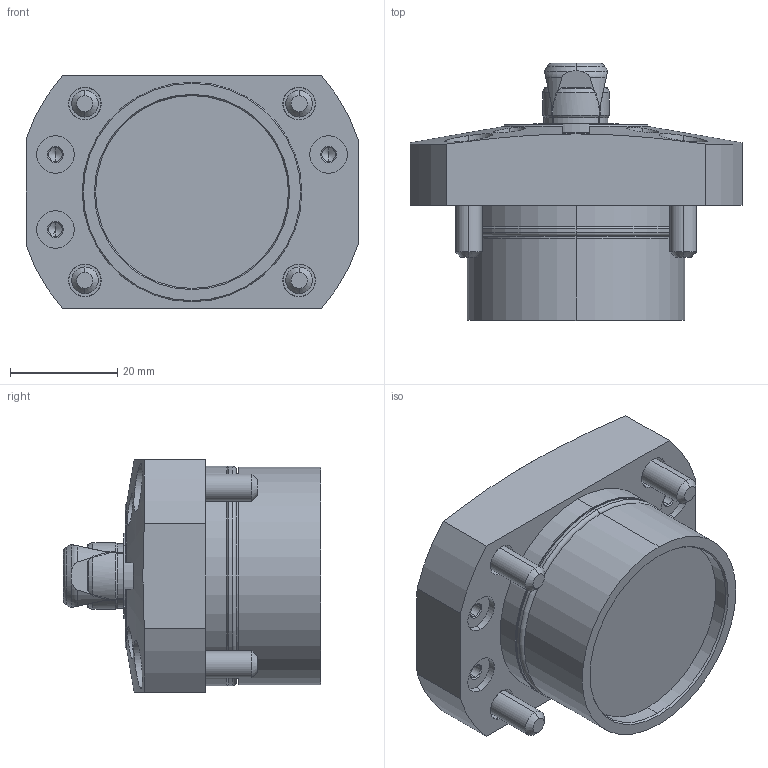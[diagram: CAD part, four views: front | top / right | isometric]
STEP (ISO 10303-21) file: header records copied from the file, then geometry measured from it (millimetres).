
FILE_DESCRIPTION (( 'STEP AP203' ), '1' );
FILE_NAME ('SFH2130.STEP', '2010-11-03T23:13:58', ( ' ' ), ( ' ' ), 'SwSTEP 2.0', 'SolidWorks 2010', '' );
FILE_SCHEMA (( 'CONFIG_CONTROL_DESIGN' ));
Length unit declared in the file: millimetre
Products named in the file (7): φ13_ｽﾘｰﾌﾞ; SFH2130; SFH2130_套菁轤礁诎蔬晅; SFH2_钾堇轤O剌皋晅; 冇13_郫霓; 6妏寠晅无倌_M3_10; 6妏寠晅无倌_M5_16
Assembly tree (12 placements, depth 2):
  SFH2130
    6妏寠晅无倌_M5_16  x4
    6妏寠晅无倌_M3_10  x4
    冇13_郫霓
    SFH2130_套菁轤礁诎蔬晅
    φ13_ｽﾘｰﾌﾞ
    SFH2_钾堇轤O剌皋晅
Bounding box: 62 x 48 x 43.5 mm (x, y, z)
Volume: 59394.4 mm3; surface area: 21700.9 mm2
Topology: 16 solids, 16 shells, 486 faces, 999 edges, 556 vertices
Faces by surface type: plane 191, cone 156, cylinder 120, torus 19
Entity records: 9939 total; most frequent: CARTESIAN_POINT 2370, DIRECTION 1476, ORIENTED_EDGE 1326, EDGE_CURVE 663, AXIS2_PLACEMENT_3D 612, VERTEX_POINT 406, EDGE_LOOP 341, ADVANCED_FACE 300
